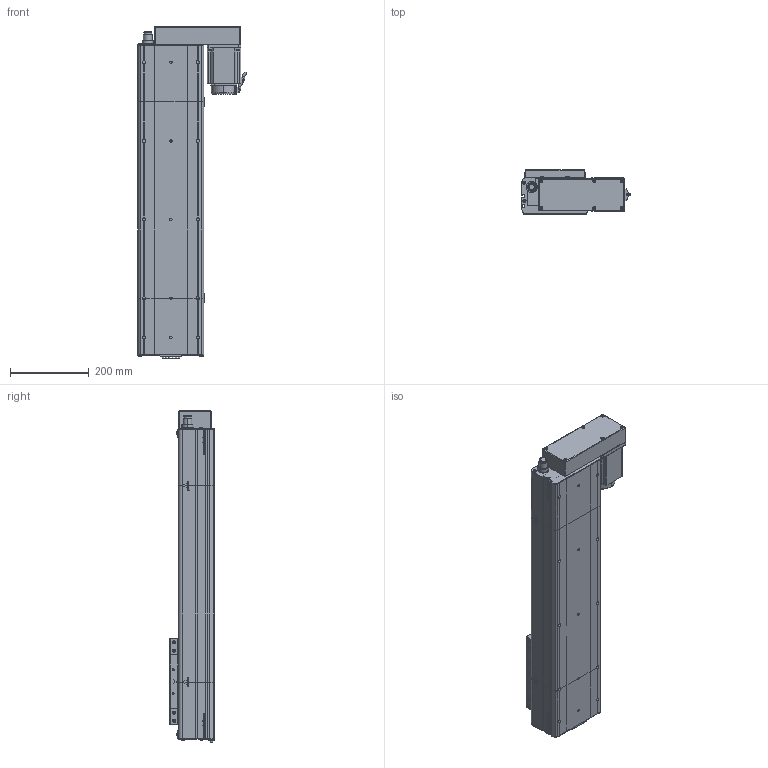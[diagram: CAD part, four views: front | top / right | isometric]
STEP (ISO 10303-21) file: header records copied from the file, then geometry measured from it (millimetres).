
FILE_DESCRIPTION (( 'STEP AP214' ), '1' );
FILE_NAME ('D17 CSH BL S500.STEP', '2010-06-29T13:59:23', ( 'Christophe Gaillard' ), ( 'SGA' ), 'SwSTEP 2.0', 'SolidWorks 2010', '' );
FILE_SCHEMA (( 'AUTOMOTIVE_DESIGN' ));
Length unit declared in the file: millimetre
Products named in the file (29): chariot D17_Default; vis M5 L15_Default; glissiere_Default; Conecteur_Default; corps 90BLDC100A-640; Head D17 BL_Default; Corp Head  D17 BL_Default; codeur 90BLDC100-640; Support Moteur BL_Default; Plaque de bout D17 head BL_Default; avant 90BLDC100A-640; Moteur motionking 90BLDC100A-640; vis M5 L60_Default; Conecteur2_Default; plaque de serrage D17 head BL_Default; D17 CSH BL S500; vis M5 L47_Default; couvercle D17 head BL_Default; couvercle D17_Default; Tail D17+100_Default; couvercle D17-500_Default; Corp L500_Default; plaque de serrage D17_Default; support chariot D17_Default; Corp D17 S500_Default; Plaque de bout D17_Default; Corp Tail D17+100_Default; ecrou_Default; Chariot D17_Default
Assembly tree (52 placements, depth 4):
  D17 CSH BL S500
    Chariot D17_Default
      vis M5 L15_Default  x8
      glissiere_Default
      chariot D17_Default
      support chariot D17_Default
    Corp D17 S500_Default
      couvercle D17-500_Default
      Corp L500_Default
    Head D17 BL_Default
      vis M5 L15_Default  x4
      vis M5 L47_Default  x2
      Corp Head  D17 BL_Default
      vis M5 L60_Default  x4
      Support Moteur BL_Default
      Moteur motionking 90BLDC100A-640
        avant 90BLDC100A-640
        codeur 90BLDC100-640
        Conecteur2_Default
        corps 90BLDC100A-640
        Conecteur_Default
      ecrou_Default  x4
      plaque de serrage D17 head BL_Default
      Plaque de bout D17 head BL_Default
      couvercle D17 head BL_Default
    Tail D17+100_Default
      vis M5 L15_Default  x6
      plaque de serrage D17_Default
      couvercle D17_Default
      Plaque de bout D17_Default
      Corp Tail D17+100_Default
Bounding box: 279.16 x 114 x 844.2 mm (x, y, z)
Volume: 6740622.3 mm3; surface area: 1223004.6 mm2
Topology: 89 solids, 89 shells, 3160 faces, 7954 edges, 5186 vertices
Faces by surface type: plane 1873, bspline 758, cylinder 410, torus 67, cone 48, sphere 4
Entity records: 148308 total; most frequent: CARTESIAN_POINT 80962, ORIENTED_EDGE 13448, DIRECTION 9702, EDGE_CURVE 6724, LINE 4554, VECTOR 4554, VERTEX_POINT 4454, EDGE_LOOP 2856
